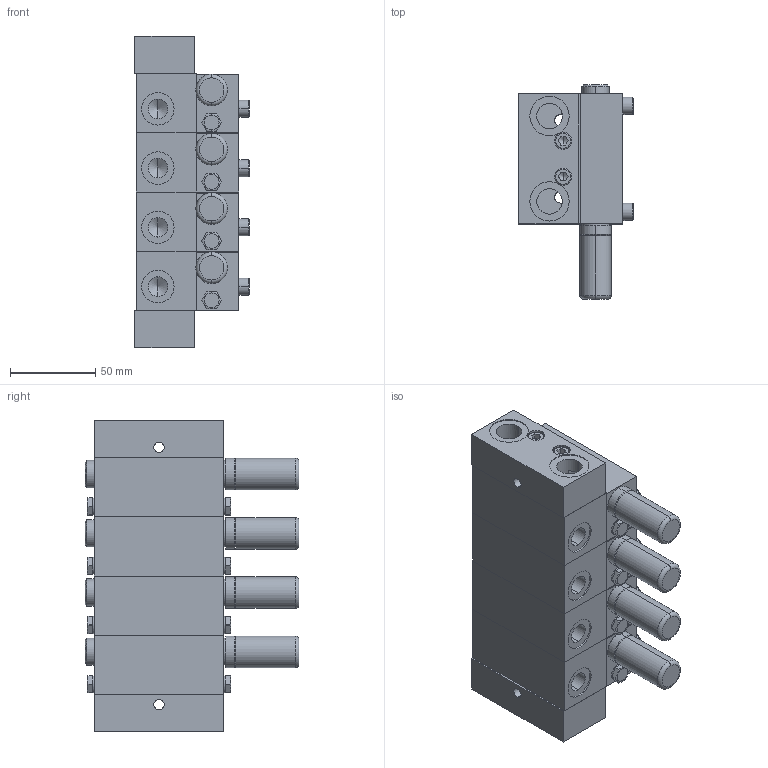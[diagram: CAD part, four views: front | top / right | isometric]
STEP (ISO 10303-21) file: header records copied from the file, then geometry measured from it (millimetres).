
FILE_DESCRIPTION((''),'2;1');
FILE_NAME('5010158_3D.stp','2017-05-31T13:25:23',(''),(''),'Mechanical Desktop 2008','Mechanical Desktop 2008',', , ');
FILE_SCHEMA(('AUTOMOTIVE_DESIGN { 1 2 10303 214 1 1 1 1 }'));
Length unit declared in the file: millimetre
Products named in the file (10): 5010158_3D; PART1; PART3; CYLINDER HEAD CAP SCREW - UNI 5931 - M 6 X  30; ~PART1; PART2; ~~PART1; CYLINDER HEAD CAP SCREW - UNI 5931 - M 6 X  25; ~~~PART1; PART4
Assembly tree (36 placements, depth 2):
  5010158_3D
    PART1  x4
    PART3  x8
    CYLINDER HEAD CAP SCREW - UNI 5931 - M 6 X  30  x8
    ~PART1  x4
    PART2  x4
    ~~PART1
    CYLINDER HEAD CAP SCREW - UNI 5931 - M 6 X  25  x2
    ~~~PART1
    PART4  x4
Bounding box: 67 x 125.3 x 182.6 mm (x, y, z)
Volume: 698886.2 mm3; surface area: 192721.8 mm2
Topology: 36 solids, 36 shells, 1304 faces, 3162 edges, 2000 vertices
Faces by surface type: plane 580, cylinder 372, cone 196, bspline 132, torus 24
Entity records: 10447 total; most frequent: CARTESIAN_POINT 2351, DIRECTION 1660, ORIENTED_EDGE 1582, EDGE_CURVE 791, AXIS2_PLACEMENT_3D 616, VERTEX_POINT 515, VECTOR 428, LINE 428
